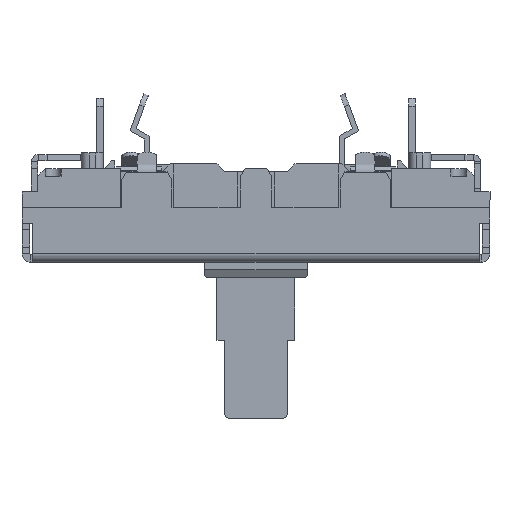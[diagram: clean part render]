
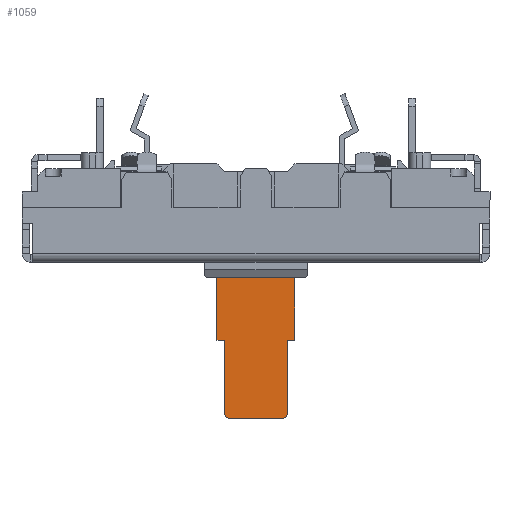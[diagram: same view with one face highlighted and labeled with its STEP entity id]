
A CAD part, top view. The second image highlights one B-rep face of the part: STEP entity #1059.
In plain terms, the highlighted planar face has unit normal (0, 0, 1) as drawn and (0, 1, 0) by its records, which use the part's own axes.
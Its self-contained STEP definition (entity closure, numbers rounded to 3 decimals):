
#16 = CARTESIAN_POINT ( 'NONE',  ( -2.5, 0.6, 11.999 ) ) ;
#381 = VERTEX_POINT ( 'NONE', #12212 ) ;
#985 = ORIENTED_EDGE ( 'NONE', *, *, #22600, .F. ) ;
#1059 = ADVANCED_FACE ( 'NONE', ( #22672 ), #8909, .F. ) ;
#1323 = CARTESIAN_POINT ( 'NONE',  ( -2.5, 0.6, 7.999 ) ) ;
#1408 = DIRECTION ( 'NONE',  ( 0., -1., 0. ) ) ;
#1609 = AXIS2_PLACEMENT_3D ( 'NONE', #9035, #14303, #16260 ) ;
#2091 = DIRECTION ( 'NONE',  ( -1., 0., 0. ) ) ;
#2440 = VERTEX_POINT ( 'NONE', #16 ) ;
#2652 = VECTOR ( 'NONE', #5274, 1000. ) ;
#2816 = DIRECTION ( 'NONE',  ( 0., 0., 1. ) ) ;
#2849 = ORIENTED_EDGE ( 'NONE', *, *, #8119, .F. ) ;
#3044 = CARTESIAN_POINT ( 'NONE',  ( 1.7, 0.6, 16.699 ) ) ;
#3305 = CIRCLE ( 'NONE', #16308, 0.3 ) ;
#3321 = CARTESIAN_POINT ( 'NONE',  ( -2.5, 0.6, 11.999 ) ) ;
#3498 = ORIENTED_EDGE ( 'NONE', *, *, #13618, .F. ) ;
#3710 = CARTESIAN_POINT ( 'NONE',  ( 2., 0.6, 11.999 ) ) ;
#3981 = CARTESIAN_POINT ( 'NONE',  ( 2., 0.6, 16.699 ) ) ;
#4547 = CARTESIAN_POINT ( 'NONE',  ( 2., 0.6, 16.699 ) ) ;
#4664 = LINE ( 'NONE', #4774, #20485 ) ;
#4720 = EDGE_CURVE ( 'NONE', #2440, #14061, #7155, .T. ) ;
#4764 = VECTOR ( 'NONE', #14283, 1000. ) ;
#4774 = CARTESIAN_POINT ( 'NONE',  ( -2.9, 0.6, 7.999 ) ) ;
#4884 = ORIENTED_EDGE ( 'NONE', *, *, #18377, .F. ) ;
#5254 = VERTEX_POINT ( 'NONE', #9267 ) ;
#5274 = DIRECTION ( 'NONE',  ( -1., 0., 0. ) ) ;
#5290 = VERTEX_POINT ( 'NONE', #3710 ) ;
#5480 = CARTESIAN_POINT ( 'NONE',  ( 2., 0.6, 11.999 ) ) ;
#5794 = EDGE_CURVE ( 'NONE', #9889, #22328, #3305, .T. ) ;
#5819 = LINE ( 'NONE', #5480, #22376 ) ;
#6212 = ORIENTED_EDGE ( 'NONE', *, *, #7984, .F. ) ;
#6410 = LINE ( 'NONE', #13517, #19041 ) ;
#7155 = LINE ( 'NONE', #3321, #4764 ) ;
#7977 = VECTOR ( 'NONE', #2816, 1000. ) ;
#7984 = EDGE_CURVE ( 'NONE', #11117, #5254, #14933, .T. ) ;
#8119 = EDGE_CURVE ( 'NONE', #5290, #22761, #21720, .T. ) ;
#8289 = CARTESIAN_POINT ( 'NONE',  ( -1.7, 0.6, 16.699 ) ) ;
#8758 = ORIENTED_EDGE ( 'NONE', *, *, #5794, .F. ) ;
#8909 = PLANE ( 'NONE',  #1609 ) ;
#9035 = CARTESIAN_POINT ( 'NONE',  ( -2.9, 0.6, 5.707 ) ) ;
#9267 = CARTESIAN_POINT ( 'NONE',  ( 2.5, 0.6, 11.999 ) ) ;
#9889 = VERTEX_POINT ( 'NONE', #14904 ) ;
#10081 = AXIS2_PLACEMENT_3D ( 'NONE', #3044, #1408, #15372 ) ;
#10281 = CARTESIAN_POINT ( 'NONE',  ( -2., 0.6, 16.699 ) ) ;
#10348 = ORIENTED_EDGE ( 'NONE', *, *, #13326, .F. ) ;
#11117 = VERTEX_POINT ( 'NONE', #13005 ) ;
#12004 = VERTEX_POINT ( 'NONE', #15321 ) ;
#12212 = CARTESIAN_POINT ( 'NONE',  ( 1.7, 0.6, 16.999 ) ) ;
#12378 = DIRECTION ( 'NONE',  ( -1., 0., 0. ) ) ;
#12484 = LINE ( 'NONE', #21261, #2652 ) ;
#12682 = DIRECTION ( 'NONE',  ( 0., 0., 1. ) ) ;
#13005 = CARTESIAN_POINT ( 'NONE',  ( 2.5, 0.6, 7.999 ) ) ;
#13275 = EDGE_LOOP ( 'NONE', ( #6212, #18844, #15717, #21144, #3498, #8758, #10348, #985, #2849, #4884 ) ) ;
#13326 = EDGE_CURVE ( 'NONE', #381, #9889, #12484, .T. ) ;
#13517 = CARTESIAN_POINT ( 'NONE',  ( -2., 0.6, 16.699 ) ) ;
#13618 = EDGE_CURVE ( 'NONE', #22328, #12004, #6410, .T. ) ;
#13740 = VECTOR ( 'NONE', #12378, 1000. ) ;
#13975 = VECTOR ( 'NONE', #12682, 1000. ) ;
#14061 = VERTEX_POINT ( 'NONE', #1323 ) ;
#14283 = DIRECTION ( 'NONE',  ( 0., 0., -1. ) ) ;
#14303 = DIRECTION ( 'NONE',  ( 0., -1., 0. ) ) ;
#14904 = CARTESIAN_POINT ( 'NONE',  ( -1.7, 0.6, 16.999 ) ) ;
#14933 = LINE ( 'NONE', #22313, #7977 ) ;
#15321 = CARTESIAN_POINT ( 'NONE',  ( -2., 0.6, 11.999 ) ) ;
#15372 = DIRECTION ( 'NONE',  ( 1., 0., 0. ) ) ;
#15717 = ORIENTED_EDGE ( 'NONE', *, *, #4720, .F. ) ;
#16260 = DIRECTION ( 'NONE',  ( 1., 0., 0. ) ) ;
#16308 = AXIS2_PLACEMENT_3D ( 'NONE', #8289, #19030, #20795 ) ;
#16770 = CIRCLE ( 'NONE', #10081, 0.3 ) ;
#18063 = EDGE_CURVE ( 'NONE', #11117, #14061, #4664, .T. ) ;
#18195 = CARTESIAN_POINT ( 'NONE',  ( -2., 0.6, 11.999 ) ) ;
#18377 = EDGE_CURVE ( 'NONE', #5254, #5290, #5819, .T. ) ;
#18844 = ORIENTED_EDGE ( 'NONE', *, *, #18063, .T. ) ;
#19030 = DIRECTION ( 'NONE',  ( 0., -1., 0. ) ) ;
#19041 = VECTOR ( 'NONE', #20636, 1000. ) ;
#20485 = VECTOR ( 'NONE', #20628, 1000. ) ;
#20628 = DIRECTION ( 'NONE',  ( -1., 0., 0. ) ) ;
#20636 = DIRECTION ( 'NONE',  ( 0., 0., -1. ) ) ;
#20795 = DIRECTION ( 'NONE',  ( -1., 0., 0. ) ) ;
#21144 = ORIENTED_EDGE ( 'NONE', *, *, #21441, .F. ) ;
#21261 = CARTESIAN_POINT ( 'NONE',  ( -1.7, 0.6, 16.999 ) ) ;
#21398 = LINE ( 'NONE', #18195, #13740 ) ;
#21441 = EDGE_CURVE ( 'NONE', #12004, #2440, #21398, .T. ) ;
#21720 = LINE ( 'NONE', #3981, #13975 ) ;
#22313 = CARTESIAN_POINT ( 'NONE',  ( 2.5, 0.6, 11.999 ) ) ;
#22328 = VERTEX_POINT ( 'NONE', #10281 ) ;
#22376 = VECTOR ( 'NONE', #2091, 1000. ) ;
#22600 = EDGE_CURVE ( 'NONE', #22761, #381, #16770, .T. ) ;
#22672 = FACE_OUTER_BOUND ( 'NONE', #13275, .T. ) ;
#22761 = VERTEX_POINT ( 'NONE', #4547 ) ;
